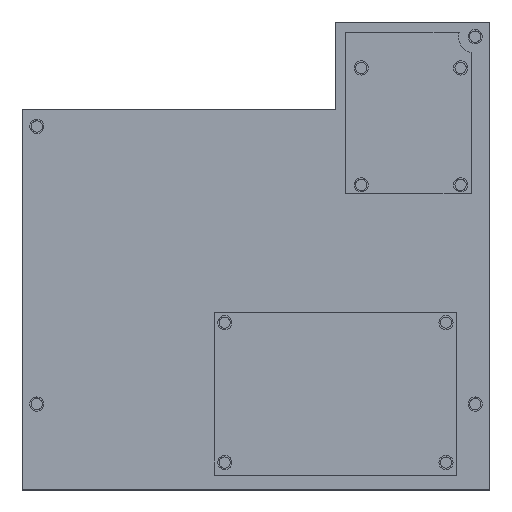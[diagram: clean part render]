
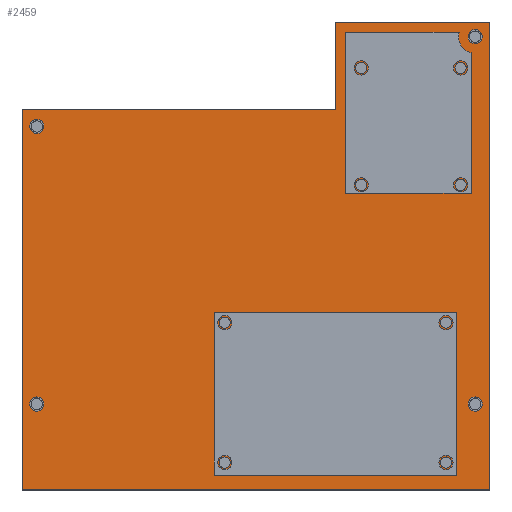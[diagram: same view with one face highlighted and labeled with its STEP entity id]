
A CAD part, top view. The second image highlights one B-rep face of the part: STEP entity #2459.
In plain terms, the highlighted planar face has unit normal (0, 0, 1).
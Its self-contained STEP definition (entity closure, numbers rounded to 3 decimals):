
#1834 = VERTEX_POINT('',#1835);
#1835 = CARTESIAN_POINT('',(68.,65.,40.8));
#1841 = EDGE_CURVE('',#1834,#1842,#1844,.T.);
#1842 = VERTEX_POINT('',#1843);
#1843 = CARTESIAN_POINT('',(180.,65.,40.8));
#1844 = LINE('',#1845,#1846);
#1845 = CARTESIAN_POINT('',(68.,65.,40.8));
#1846 = VECTOR('',#1847,1.);
#1847 = DIRECTION('',(1.,0.,0.));
#1874 = VERTEX_POINT('',#1875);
#1875 = CARTESIAN_POINT('',(68.,156.,40.8));
#1881 = EDGE_CURVE('',#1874,#1834,#1882,.T.);
#1882 = LINE('',#1883,#1884);
#1883 = CARTESIAN_POINT('',(68.,156.,40.8));
#1884 = VECTOR('',#1885,1.);
#1885 = DIRECTION('',(0.,-1.,0.));
#1903 = EDGE_CURVE('',#1842,#1904,#1906,.T.);
#1904 = VERTEX_POINT('',#1905);
#1905 = CARTESIAN_POINT('',(180.,177.,40.8));
#1906 = LINE('',#1907,#1908);
#1907 = CARTESIAN_POINT('',(180.,65.,40.8));
#1908 = VECTOR('',#1909,1.);
#1909 = DIRECTION('',(0.,1.,0.));
#2459 = ADVANCED_FACE('',(#2460,#2487,#2498,#2509,#2520,#2554,#2565,
    #2576,#2587,#2598,#2609,#2620,#2631,#2665,#2676),#2687,.T.);
#2460 = FACE_BOUND('',#2461,.T.);
#2461 = EDGE_LOOP('',(#2462,#2463,#2464,#2472,#2480,#2486));
#2462 = ORIENTED_EDGE('',*,*,#1841,.T.);
#2463 = ORIENTED_EDGE('',*,*,#1903,.T.);
#2464 = ORIENTED_EDGE('',*,*,#2465,.T.);
#2465 = EDGE_CURVE('',#1904,#2466,#2468,.T.);
#2466 = VERTEX_POINT('',#2467);
#2467 = CARTESIAN_POINT('',(143.,177.,40.8));
#2468 = LINE('',#2469,#2470);
#2469 = CARTESIAN_POINT('',(180.,177.,40.8));
#2470 = VECTOR('',#2471,1.);
#2471 = DIRECTION('',(-1.,0.,0.));
#2472 = ORIENTED_EDGE('',*,*,#2473,.T.);
#2473 = EDGE_CURVE('',#2466,#2474,#2476,.T.);
#2474 = VERTEX_POINT('',#2475);
#2475 = CARTESIAN_POINT('',(143.,156.,40.8));
#2476 = LINE('',#2477,#2478);
#2477 = CARTESIAN_POINT('',(143.,177.,40.8));
#2478 = VECTOR('',#2479,1.);
#2479 = DIRECTION('',(0.,-1.,0.));
#2480 = ORIENTED_EDGE('',*,*,#2481,.T.);
#2481 = EDGE_CURVE('',#2474,#1874,#2482,.T.);
#2482 = LINE('',#2483,#2484);
#2483 = CARTESIAN_POINT('',(143.,156.,40.8));
#2484 = VECTOR('',#2485,1.);
#2485 = DIRECTION('',(-1.,0.,0.));
#2486 = ORIENTED_EDGE('',*,*,#1881,.T.);
#2487 = FACE_BOUND('',#2488,.T.);
#2488 = EDGE_LOOP('',(#2489));
#2489 = ORIENTED_EDGE('',*,*,#2490,.F.);
#2490 = EDGE_CURVE('',#2491,#2491,#2493,.T.);
#2491 = VERTEX_POINT('',#2492);
#2492 = CARTESIAN_POINT('',(73.2,85.5,40.8));
#2493 = CIRCLE('',#2494,1.7);
#2494 = AXIS2_PLACEMENT_3D('',#2495,#2496,#2497);
#2495 = CARTESIAN_POINT('',(71.5,85.5,40.8));
#2496 = DIRECTION('',(0.,0.,1.));
#2497 = DIRECTION('',(1.,0.,0.));
#2498 = FACE_BOUND('',#2499,.T.);
#2499 = EDGE_LOOP('',(#2500));
#2500 = ORIENTED_EDGE('',*,*,#2501,.F.);
#2501 = EDGE_CURVE('',#2502,#2502,#2504,.T.);
#2502 = VERTEX_POINT('',#2503);
#2503 = CARTESIAN_POINT('',(117.85,71.5,40.8));
#2504 = CIRCLE('',#2505,1.35);
#2505 = AXIS2_PLACEMENT_3D('',#2506,#2507,#2508);
#2506 = CARTESIAN_POINT('',(116.5,71.5,40.8));
#2507 = DIRECTION('',(0.,0.,1.));
#2508 = DIRECTION('',(1.,0.,0.));
#2509 = FACE_BOUND('',#2510,.T.);
#2510 = EDGE_LOOP('',(#2511));
#2511 = ORIENTED_EDGE('',*,*,#2512,.F.);
#2512 = EDGE_CURVE('',#2513,#2513,#2515,.T.);
#2513 = VERTEX_POINT('',#2514);
#2514 = CARTESIAN_POINT('',(117.85,105.,40.8));
#2515 = CIRCLE('',#2516,1.35);
#2516 = AXIS2_PLACEMENT_3D('',#2517,#2518,#2519);
#2517 = CARTESIAN_POINT('',(116.5,105.,40.8));
#2518 = DIRECTION('',(0.,0.,1.));
#2519 = DIRECTION('',(1.,0.,0.));
#2520 = FACE_BOUND('',#2521,.T.);
#2521 = EDGE_LOOP('',(#2522,#2532,#2540,#2548));
#2522 = ORIENTED_EDGE('',*,*,#2523,.T.);
#2523 = EDGE_CURVE('',#2524,#2526,#2528,.T.);
#2524 = VERTEX_POINT('',#2525);
#2525 = CARTESIAN_POINT('',(167.,70.,40.8));
#2526 = VERTEX_POINT('',#2527);
#2527 = CARTESIAN_POINT('',(119.,70.,40.8));
#2528 = LINE('',#2529,#2530);
#2529 = CARTESIAN_POINT('',(123.258,70.,40.8));
#2530 = VECTOR('',#2531,1.);
#2531 = DIRECTION('',(-1.,0.,0.));
#2532 = ORIENTED_EDGE('',*,*,#2533,.T.);
#2533 = EDGE_CURVE('',#2526,#2534,#2536,.T.);
#2534 = VERTEX_POINT('',#2535);
#2535 = CARTESIAN_POINT('',(119.,103.,40.8));
#2536 = LINE('',#2537,#2538);
#2537 = CARTESIAN_POINT('',(119.,93.742,40.8));
#2538 = VECTOR('',#2539,1.);
#2539 = DIRECTION('',(0.,1.,0.));
#2540 = ORIENTED_EDGE('',*,*,#2541,.F.);
#2541 = EDGE_CURVE('',#2542,#2534,#2544,.T.);
#2542 = VERTEX_POINT('',#2543);
#2543 = CARTESIAN_POINT('',(167.,103.,40.8));
#2544 = LINE('',#2545,#2546);
#2545 = CARTESIAN_POINT('',(123.258,103.,40.8));
#2546 = VECTOR('',#2547,1.);
#2547 = DIRECTION('',(-1.,0.,0.));
#2548 = ORIENTED_EDGE('',*,*,#2549,.F.);
#2549 = EDGE_CURVE('',#2524,#2542,#2550,.T.);
#2550 = LINE('',#2551,#2552);
#2551 = CARTESIAN_POINT('',(167.,93.742,40.8));
#2552 = VECTOR('',#2553,1.);
#2553 = DIRECTION('',(0.,1.,0.));
#2554 = FACE_BOUND('',#2555,.T.);
#2555 = EDGE_LOOP('',(#2556));
#2556 = ORIENTED_EDGE('',*,*,#2557,.F.);
#2557 = EDGE_CURVE('',#2558,#2558,#2560,.T.);
#2558 = VERTEX_POINT('',#2559);
#2559 = CARTESIAN_POINT('',(170.85,71.5,40.8));
#2560 = CIRCLE('',#2561,1.35);
#2561 = AXIS2_PLACEMENT_3D('',#2562,#2563,#2564);
#2562 = CARTESIAN_POINT('',(169.5,71.5,40.8));
#2563 = DIRECTION('',(0.,0.,1.));
#2564 = DIRECTION('',(1.,0.,0.));
#2565 = FACE_BOUND('',#2566,.T.);
#2566 = EDGE_LOOP('',(#2567));
#2567 = ORIENTED_EDGE('',*,*,#2568,.F.);
#2568 = EDGE_CURVE('',#2569,#2569,#2571,.T.);
#2569 = VERTEX_POINT('',#2570);
#2570 = CARTESIAN_POINT('',(178.2,85.5,40.8));
#2571 = CIRCLE('',#2572,1.7);
#2572 = AXIS2_PLACEMENT_3D('',#2573,#2574,#2575);
#2573 = CARTESIAN_POINT('',(176.5,85.5,40.8));
#2574 = DIRECTION('',(0.,0.,1.));
#2575 = DIRECTION('',(1.,0.,0.));
#2576 = FACE_BOUND('',#2577,.T.);
#2577 = EDGE_LOOP('',(#2578));
#2578 = ORIENTED_EDGE('',*,*,#2579,.F.);
#2579 = EDGE_CURVE('',#2580,#2580,#2582,.T.);
#2580 = VERTEX_POINT('',#2581);
#2581 = CARTESIAN_POINT('',(170.85,105.,40.8));
#2582 = CIRCLE('',#2583,1.35);
#2583 = AXIS2_PLACEMENT_3D('',#2584,#2585,#2586);
#2584 = CARTESIAN_POINT('',(169.5,105.,40.8));
#2585 = DIRECTION('',(0.,0.,1.));
#2586 = DIRECTION('',(1.,0.,0.));
#2587 = FACE_BOUND('',#2588,.T.);
#2588 = EDGE_LOOP('',(#2589));
#2589 = ORIENTED_EDGE('',*,*,#2590,.F.);
#2590 = EDGE_CURVE('',#2591,#2591,#2593,.T.);
#2591 = VERTEX_POINT('',#2592);
#2592 = CARTESIAN_POINT('',(73.2,152.,40.8));
#2593 = CIRCLE('',#2594,1.7);
#2594 = AXIS2_PLACEMENT_3D('',#2595,#2596,#2597);
#2595 = CARTESIAN_POINT('',(71.5,152.,40.8));
#2596 = DIRECTION('',(0.,0.,1.));
#2597 = DIRECTION('',(1.,0.,0.));
#2598 = FACE_BOUND('',#2599,.T.);
#2599 = EDGE_LOOP('',(#2600));
#2600 = ORIENTED_EDGE('',*,*,#2601,.F.);
#2601 = EDGE_CURVE('',#2602,#2602,#2604,.T.);
#2602 = VERTEX_POINT('',#2603);
#2603 = CARTESIAN_POINT('',(150.55,138.,40.8));
#2604 = CIRCLE('',#2605,1.35);
#2605 = AXIS2_PLACEMENT_3D('',#2606,#2607,#2608);
#2606 = CARTESIAN_POINT('',(149.2,138.,40.8));
#2607 = DIRECTION('',(0.,0.,1.));
#2608 = DIRECTION('',(1.,0.,0.));
#2609 = FACE_BOUND('',#2610,.T.);
#2610 = EDGE_LOOP('',(#2611));
#2611 = ORIENTED_EDGE('',*,*,#2612,.F.);
#2612 = EDGE_CURVE('',#2613,#2613,#2615,.T.);
#2613 = VERTEX_POINT('',#2614);
#2614 = CARTESIAN_POINT('',(174.35,138.,40.8));
#2615 = CIRCLE('',#2616,1.35);
#2616 = AXIS2_PLACEMENT_3D('',#2617,#2618,#2619);
#2617 = CARTESIAN_POINT('',(173.,138.,40.8));
#2618 = DIRECTION('',(0.,0.,1.));
#2619 = DIRECTION('',(1.,0.,0.));
#2620 = FACE_BOUND('',#2621,.T.);
#2621 = EDGE_LOOP('',(#2622));
#2622 = ORIENTED_EDGE('',*,*,#2623,.F.);
#2623 = EDGE_CURVE('',#2624,#2624,#2626,.T.);
#2624 = VERTEX_POINT('',#2625);
#2625 = CARTESIAN_POINT('',(150.55,166.,40.8));
#2626 = CIRCLE('',#2627,1.35);
#2627 = AXIS2_PLACEMENT_3D('',#2628,#2629,#2630);
#2628 = CARTESIAN_POINT('',(149.2,166.,40.8));
#2629 = DIRECTION('',(0.,0.,1.));
#2630 = DIRECTION('',(1.,0.,0.));
#2631 = FACE_BOUND('',#2632,.T.);
#2632 = EDGE_LOOP('',(#2633,#2643,#2651,#2659));
#2633 = ORIENTED_EDGE('',*,*,#2634,.T.);
#2634 = EDGE_CURVE('',#2635,#2637,#2639,.T.);
#2635 = VERTEX_POINT('',#2636);
#2636 = CARTESIAN_POINT('',(169.,140.,40.8));
#2637 = VERTEX_POINT('',#2638);
#2638 = CARTESIAN_POINT('',(153.,140.,40.8));
#2639 = LINE('',#2640,#2641);
#2640 = CARTESIAN_POINT('',(140.258,140.,40.8));
#2641 = VECTOR('',#2642,1.);
#2642 = DIRECTION('',(-1.,0.,0.));
#2643 = ORIENTED_EDGE('',*,*,#2644,.T.);
#2644 = EDGE_CURVE('',#2637,#2645,#2647,.T.);
#2645 = VERTEX_POINT('',#2646);
#2646 = CARTESIAN_POINT('',(153.,171.,40.8));
#2647 = LINE('',#2648,#2649);
#2648 = CARTESIAN_POINT('',(153.,128.742,40.8));
#2649 = VECTOR('',#2650,1.);
#2650 = DIRECTION('',(0.,1.,0.));
#2651 = ORIENTED_EDGE('',*,*,#2652,.F.);
#2652 = EDGE_CURVE('',#2653,#2645,#2655,.T.);
#2653 = VERTEX_POINT('',#2654);
#2654 = CARTESIAN_POINT('',(169.,171.,40.8));
#2655 = LINE('',#2656,#2657);
#2656 = CARTESIAN_POINT('',(140.258,171.,40.8));
#2657 = VECTOR('',#2658,1.);
#2658 = DIRECTION('',(-1.,0.,0.));
#2659 = ORIENTED_EDGE('',*,*,#2660,.F.);
#2660 = EDGE_CURVE('',#2635,#2653,#2661,.T.);
#2661 = LINE('',#2662,#2663);
#2662 = CARTESIAN_POINT('',(169.,128.742,40.8));
#2663 = VECTOR('',#2664,1.);
#2664 = DIRECTION('',(0.,1.,0.));
#2665 = FACE_BOUND('',#2666,.T.);
#2666 = EDGE_LOOP('',(#2667));
#2667 = ORIENTED_EDGE('',*,*,#2668,.F.);
#2668 = EDGE_CURVE('',#2669,#2669,#2671,.T.);
#2669 = VERTEX_POINT('',#2670);
#2670 = CARTESIAN_POINT('',(174.35,166.,40.8));
#2671 = CIRCLE('',#2672,1.35);
#2672 = AXIS2_PLACEMENT_3D('',#2673,#2674,#2675);
#2673 = CARTESIAN_POINT('',(173.,166.,40.8));
#2674 = DIRECTION('',(0.,0.,1.));
#2675 = DIRECTION('',(1.,0.,0.));
#2676 = FACE_BOUND('',#2677,.T.);
#2677 = EDGE_LOOP('',(#2678));
#2678 = ORIENTED_EDGE('',*,*,#2679,.F.);
#2679 = EDGE_CURVE('',#2680,#2680,#2682,.T.);
#2680 = VERTEX_POINT('',#2681);
#2681 = CARTESIAN_POINT('',(178.2,173.5,40.8));
#2682 = CIRCLE('',#2683,1.7);
#2683 = AXIS2_PLACEMENT_3D('',#2684,#2685,#2686);
#2684 = CARTESIAN_POINT('',(176.5,173.5,40.8));
#2685 = DIRECTION('',(0.,0.,1.));
#2686 = DIRECTION('',(1.,0.,0.));
#2687 = PLANE('',#2688);
#2688 = AXIS2_PLACEMENT_3D('',#2689,#2690,#2691);
#2689 = CARTESIAN_POINT('',(127.516,117.484,40.8));
#2690 = DIRECTION('',(0.,0.,1.));
#2691 = DIRECTION('',(1.,0.,0.));
